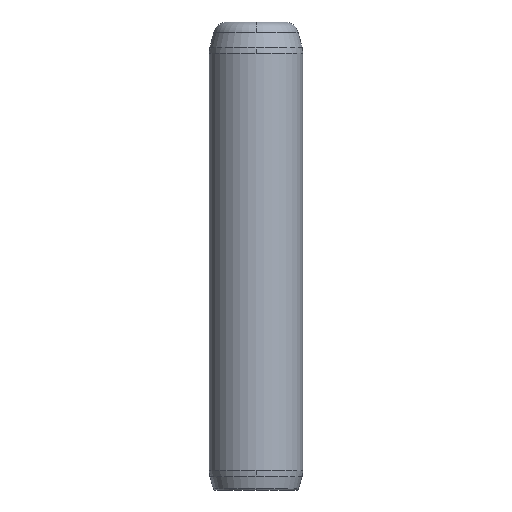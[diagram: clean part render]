
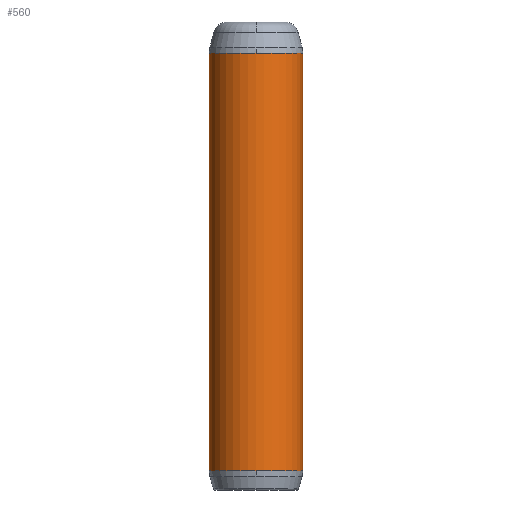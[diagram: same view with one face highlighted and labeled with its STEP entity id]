
A CAD part, front view. The second image highlights one B-rep face of the part: STEP entity #560.
In plain terms, the highlighted cylindrical face has radius 10 mm (diameter 20 mm), a partial arc.
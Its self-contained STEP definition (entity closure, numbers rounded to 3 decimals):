
#464=CARTESIAN_POINT('',(0.0,93.342,10.0));
#465=VERTEX_POINT('',#464);
#492=CARTESIAN_POINT('',(-10.0,93.342,0.));
#493=VERTEX_POINT('',#492);
#501=CARTESIAN_POINT('',(0.0,93.342,0.0));
#502=DIRECTION('',(0.0,1.0,0.0));
#503=DIRECTION('',(1.0,0.0,0.0));
#504=AXIS2_PLACEMENT_3D('',#501,#502,#503);
#505=CIRCLE('',#504,10.0);
#506=EDGE_CURVE('',#493,#465,#505,.T.);
#511=CARTESIAN_POINT('',(0.0,-0.301,0.0));
#512=DIRECTION('',(0.0,1.0,0.0));
#513=DIRECTION('',(1.0,0.0,0.0));
#514=AXIS2_PLACEMENT_3D('',#511,#512,#513);
#515=CYLINDRICAL_SURFACE('',#514,10.0);
#516=CARTESIAN_POINT('',(10.0,93.342,0.0));
#517=VERTEX_POINT('',#516);
#518=CARTESIAN_POINT('',(10.,4.158,0.0));
#519=VERTEX_POINT('',#518);
#520=CARTESIAN_POINT('',(10.0,93.342,0.0));
#521=DIRECTION('',(0.0,-1.0,0.0));
#522=VECTOR('',#521,89.183);
#523=LINE('',#520,#522);
#524=EDGE_CURVE('',#517,#519,#523,.T.);
#525=ORIENTED_EDGE('',*,*,#524,.F.);
#526=CARTESIAN_POINT('',(0.0,93.342,0.0));
#527=DIRECTION('',(0.0,1.0,0.0));
#528=DIRECTION('',(1.0,0.0,0.0));
#529=AXIS2_PLACEMENT_3D('',#526,#527,#528);
#530=CIRCLE('',#529,10.0);
#531=EDGE_CURVE('',#465,#517,#530,.T.);
#532=ORIENTED_EDGE('',*,*,#531,.F.);
#533=ORIENTED_EDGE('',*,*,#506,.F.);
#534=CARTESIAN_POINT('',(-10.0,4.158,0.));
#535=VERTEX_POINT('',#534);
#536=CARTESIAN_POINT('',(-10.0,93.342,0.));
#537=DIRECTION('',(0.0,-1.0,0.0));
#538=VECTOR('',#537,89.183);
#539=LINE('',#536,#538);
#540=EDGE_CURVE('',#493,#535,#539,.T.);
#541=ORIENTED_EDGE('',*,*,#540,.T.);
#542=CARTESIAN_POINT('',(0.0,4.158,10.));
#543=VERTEX_POINT('',#542);
#544=CARTESIAN_POINT('',(0.0,4.158,0.0));
#545=DIRECTION('',(0.0,1.0,0.0));
#546=DIRECTION('',(1.0,0.0,0.0));
#547=AXIS2_PLACEMENT_3D('',#544,#545,#546);
#548=CIRCLE('',#547,10.);
#549=EDGE_CURVE('',#535,#543,#548,.T.);
#550=ORIENTED_EDGE('',*,*,#549,.T.);
#551=CARTESIAN_POINT('',(0.0,4.158,0.0));
#552=DIRECTION('',(0.0,1.0,0.0));
#553=DIRECTION('',(1.0,0.0,0.0));
#554=AXIS2_PLACEMENT_3D('',#551,#552,#553);
#555=CIRCLE('',#554,10.);
#556=EDGE_CURVE('',#543,#519,#555,.T.);
#557=ORIENTED_EDGE('',*,*,#556,.T.);
#558=EDGE_LOOP('',(#525,#532,#533,#541,#550,#557));
#559=FACE_OUTER_BOUND('',#558,.T.);
#560=ADVANCED_FACE('',(#559),#515,.T.);
